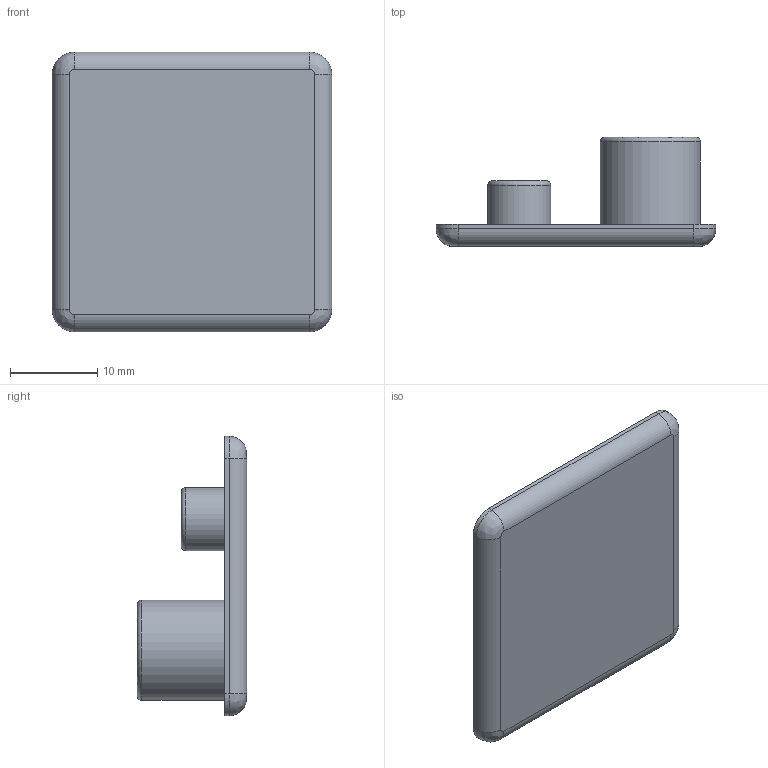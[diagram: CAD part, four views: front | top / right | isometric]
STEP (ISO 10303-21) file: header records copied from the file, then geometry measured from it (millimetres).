
FILE_DESCRIPTION(/* description */ ('STEP AP203'),/* implementation_level */ '2;1');
FILE_NAME(/* name */ 'C:\Users\Stefan.Nesic\Desktop\01010STEP\000Verifica\CORRETTI\CC32-32B.stp',/* time_stamp */ '2022-07-11T14:28:21+02:00',/* author */ (''),/* organization */ (''),/* preprocessor_version */ 'ST-DEVELOPER v18.1',/* originating_system */ 'Autodesk Inventor 2021',/* authorisation */ '');
FILE_SCHEMA (('AUTOMOTIVE_DESIGN { 1 0 10303 214 3 1 1 }'));
Length unit declared in the file: millimetre
Products named in the file (1): CC32-32B
Bounding box: 32 x 12.5 x 32 mm (x, y, z)
Volume: 2841.1 mm3; surface area: 3089.7 mm2
Topology: 1 solids, 1 shells, 28 faces, 58 edges, 36 vertices
Faces by surface type: cylinder 12, plane 10, bspline 4, torus 2
Full cylindrical faces by diameter (mm): 5.8 x1, 7.2 x1, 9.5 x1, 11.5 x1
Entity records: 809 total; most frequent: CARTESIAN_POINT 155, DIRECTION 142, ORIENTED_EDGE 116, AXIS2_PLACEMENT_3D 59, EDGE_CURVE 58, VERTEX_POINT 36, CIRCLE 34, EDGE_LOOP 32
